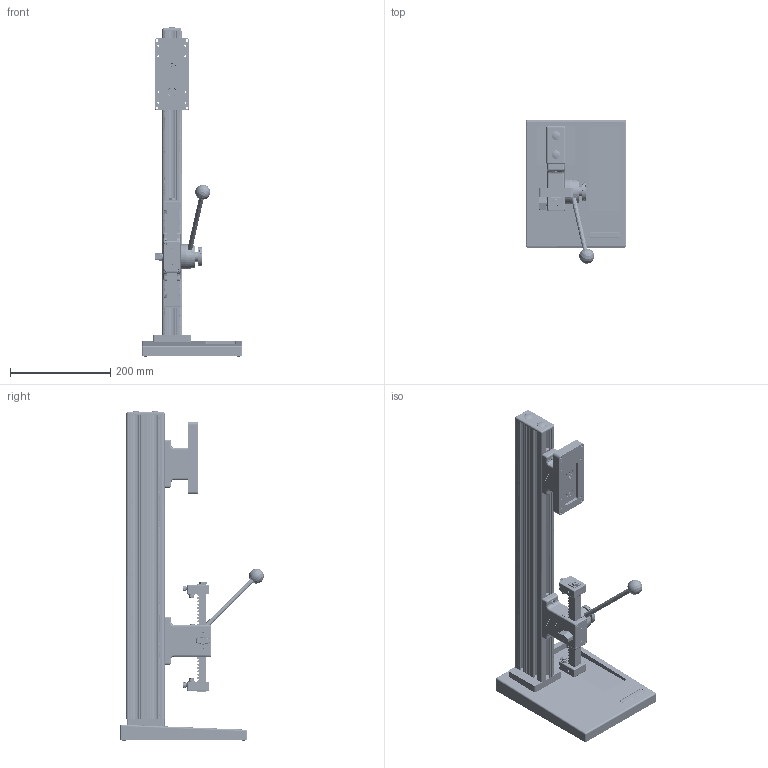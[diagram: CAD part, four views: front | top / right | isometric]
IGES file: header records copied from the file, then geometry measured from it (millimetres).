
Global section: file name: TSA750; native system: Autodesk RealDWG; preprocessor: Autodesk Translation Framework DWG producer (atf_dwg_producer); organization: unknown; date: 20180718.112258; units: inch
Bounding box: 200.66 x 286.93 x 658.57 mm (x, y, z)
Volume: 2794875.4 mm3; surface area: 667305.4 mm2
Topology: 5 solids, 27 shells, 7482 faces, 19502 edges, 12137 vertices
Faces by surface type: bspline 7482
